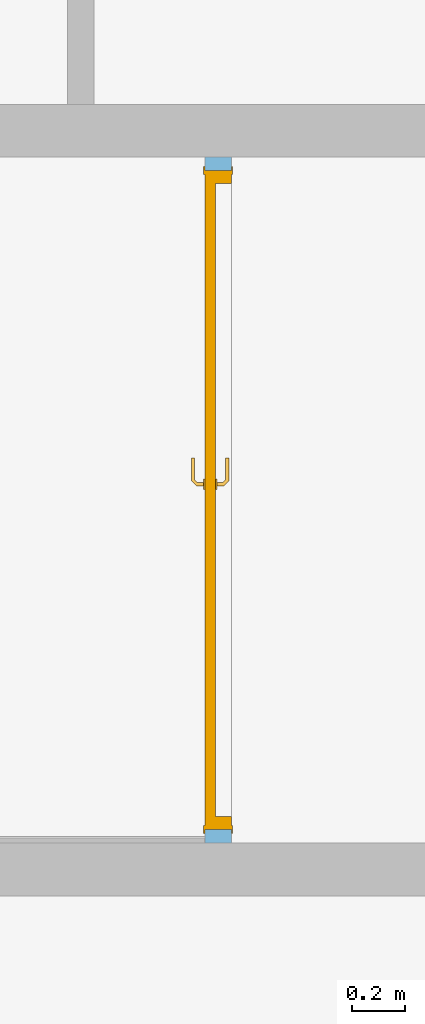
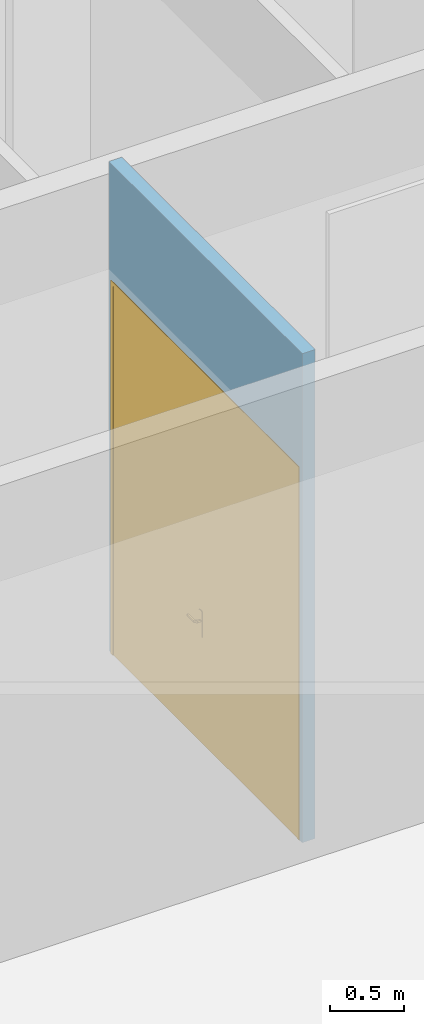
# One storey, part 222 of 240: 1 door, 1 opening, plus 1 element that does not belong to this part.
"""IFC2X3 building model written with IfcOpenShell, lengths in centimetres."""

from ifc_helpers import new_model, entity, si_unit, converted_unit, derived_unit, direction, frame, frame_2d, origin, place, context, subcontext, project, spatial, rectangle, extrude, faceted_brep, source, transform, mapped, material, material_list, layer, layer_set, layer_usage, type_object, type_shapes, element, fill, save


model = new_model("IFC2X3")

# Units and contexts
model_context = context("Model", 3, precision=0.001, world=origin(), true_north=direction((6.12303176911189e-17, 1.0)))
body_context = subcontext(model_context, "Body", "Model", "MODEL_VIEW")
ifc_project = project(units=[si_unit("LENGTHUNIT", "METRE", prefix="CENTI"), si_unit("AREAUNIT", "SQUARE_METRE"), si_unit("VOLUMEUNIT", "CUBIC_METRE"), converted_unit("PLANEANGLEUNIT", "DEGREE", entity("IfcRatioMeasure", 0.0174532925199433), si_unit("PLANEANGLEUNIT", "RADIAN"), dimensions=[0, 0, 0, 0, 0, 0, 0]), si_unit("MASSUNIT", "GRAM", prefix="KILO"), derived_unit("MASSDENSITYUNIT", [(si_unit("MASSUNIT", "GRAM", prefix="KILO"), 1), (si_unit("LENGTHUNIT", "METRE"), -3)]), si_unit("TIMEUNIT", "SECOND"), si_unit("FREQUENCYUNIT", "HERTZ"), si_unit("THERMODYNAMICTEMPERATUREUNIT", "DEGREE_CELSIUS"), derived_unit("THERMALTRANSMITTANCEUNIT", [(si_unit("MASSUNIT", "GRAM", prefix="KILO"), 1), (si_unit("THERMODYNAMICTEMPERATUREUNIT", "KELVIN"), -1), (si_unit("TIMEUNIT", "SECOND"), -3)]), derived_unit("VOLUMETRICFLOWRATEUNIT", [(si_unit("LENGTHUNIT", "METRE"), 3), (si_unit("TIMEUNIT", "SECOND"), -1)]), si_unit("ELECTRICCURRENTUNIT", "AMPERE"), si_unit("ELECTRICVOLTAGEUNIT", "VOLT"), si_unit("POWERUNIT", "WATT"), si_unit("FORCEUNIT", "NEWTON", prefix="KILO"), si_unit("ILLUMINANCEUNIT", "LUX"), si_unit("LUMINOUSFLUXUNIT", "LUMEN"), si_unit("LUMINOUSINTENSITYUNIT", "CANDELA"), derived_unit("USERDEFINED", [(si_unit("MASSUNIT", "GRAM", prefix="KILO"), -1), (si_unit("LENGTHUNIT", "METRE"), -2), (si_unit("TIMEUNIT", "SECOND"), 3), (si_unit("LUMINOUSFLUXUNIT", "LUMEN"), 1)]), derived_unit("LINEARVELOCITYUNIT", [(si_unit("LENGTHUNIT", "METRE"), 1), (si_unit("TIMEUNIT", "SECOND"), -1)]), si_unit("PRESSUREUNIT", "PASCAL"), derived_unit("USERDEFINED", [(si_unit("LENGTHUNIT", "METRE"), -2), (si_unit("MASSUNIT", "GRAM", prefix="KILO"), 1), (si_unit("TIMEUNIT", "SECOND"), -2)])], contexts=[model_context])

# Site, building, storey
site_placement = place(None, frame((-2781.94577612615, 7442.24238424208, 0.0)))
site = spatial("IfcSite", under=ifc_project, at=site_placement, Name="Default", CompositionType="ELEMENT")
building_placement = place(site_placement, origin())
building = spatial("IfcBuilding", under=site, at=building_placement, CompositionType="ELEMENT")
storey_placement = place(building_placement, origin())
storey = spatial("IfcBuildingStorey", under=building, at=storey_placement, Name="N00 - COO", CompositionType="ELEMENT", Elevation=0.0)

# Wall, opening, door
ifc_material_1 = material(Name="01 - Enduit/Plâtre")
ifc_layer_1 = layer(ifc_material_1, 1.3)
ifc_material_2 = material(Name="00 - Isolant")
ifc_layer_2 = layer(ifc_material_2, 7.4)
ifc_layer_3 = layer(ifc_material_1, 1.3)
ifc_layer_set = layer_set([ifc_layer_1, ifc_layer_2, ifc_layer_3], Name="Mur de base:06 - cloisons - Ba13 10cm")
ifc_layer_usage = layer_usage(ifc_layer_set, "AXIS2", "NEGATIVE", 5.0)
wall_type = type_object("IfcWallType", Name="Mur de base:06 - cloisons - Ba13 10cm", PredefinedType="STANDARD", material=ifc_layer_set)
wall_placement = place(building_placement, frame((-2756.99988284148, -1930.07903364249, 0.0), z_axis=(0.0, 0.0, 1.0), x_axis=(0.0, -1.0, 0.0)))
wall = element("IfcWallStandardCase", 1, at=wall_placement, inside=storey, type_object=wall_type, material=ifc_layer_usage, Name="Mur de base:06 - cloisons - Ba13 10cm", ObjectType="Mur de base:06 - cloisons - Ba13 10cm", context=body_context, shape_type="SweptSolid", body=[
    extrude(rectangle(XDim=259.999999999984, YDim=10.0000000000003, at=frame_2d((129.999999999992, 3.5527136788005e-15), x_axis=(-1.0, 0.0))), origin(), (0.0, 0.0, 1.0), 401.0),
])
opening_placement = place(wall_placement, frame((255.0, 5.0, 0.0)))
opening = element("IfcOpeningElement", 2, at=opening_placement, cuts=wall, Name="Int. Double:PV (2.50m x 3.06m):1", ObjectType="Opening", context=body_context, shape_type="SweptSolid", body=[
    extrude(rectangle(XDim=304.500000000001, YDim=250.0, at=frame_2d((152.250000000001, 125.0), x_axis=(1.0, 0.0))), frame((0.0, 0.0, 0.0), z_axis=(0.0, -1.0, 0.0), x_axis=(0.0, 0.0, 1.0)), (0.0, 0.0, 1.0), 10.0),
])
ifc_material_3 = material(Name="Bois - Panneau de porte")
ifc_material_4 = material(Name="Finition Peinture - Blanc satiné")
ifc_material_5 = material(Name="Bois - Cadre de porte")
ifc_material_list_1 = material_list([ifc_material_3, ifc_material_4, ifc_material_5])
ifc_material_list_2 = material_list([ifc_material_3, ifc_material_4, ifc_material_5])
door_style = type_object("IfcDoorStyle", Name="PV (2.50m x 3.06m)", ConstructionType="NOTDEFINED", OperationType="DOUBLE_DOOR_SINGLE_SWING", ParameterTakesPrecedence=False, Sizeable=False, material=ifc_material_list_2)
shared_shape = source(origin(), body_context, "Body", "Brep", [
    faceted_brep([(132.0, 4.0, 301.0), (253.500000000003, 4.0, 301.0), (253.500000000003, 4.0, 0.0), (132.0, 4.0, 0.0), (132.0, 0.0, 301.0), (132.0, 0.0, 0.0), (253.500000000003, 0.0, 0.0), (253.500000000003, 0.0, 301.0)], [[[0, 1, 2, 3]], [[4, 5, 6, 7]], [[1, 0, 4, 7]], [[2, 1, 7, 6]], [[3, 2, 6, 5]], [[0, 3, 5, 4]]]),
    faceted_brep([(128.0, -0.50000000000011, 87.0), (128.0, -0.50000000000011, 108.0), (127.035276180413, -0.500000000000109, 108.399601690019), (126.0, -0.500000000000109, 108.535898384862), (124.964723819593, -0.500000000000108, 108.399601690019), (124.0, -0.500000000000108, 108.0), (124.0, -0.500000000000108, 87.0), (124.964723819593, -0.500000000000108, 86.6003983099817), (126.0, -0.500000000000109, 86.464101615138), (127.035276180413, -0.500000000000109, 86.6003983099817), (128.0, 0.0, 108.0), (128.0, 0.0, 87.0), (127.035276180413, 0.0, 86.6003983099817), (126.0, 0.0, 86.464101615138), (124.964723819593, 0.0, 86.6003983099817), (124.0, 0.0, 87.0), (124.0, 0.0, 108.0), (124.964723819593, 0.0, 108.399601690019), (126.0, 0.0, 108.535898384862), (127.035276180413, 0.0, 108.399601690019)], [[[0, 1, 2, 3, 4, 5, 6, 7, 8, 9]], [[10, 11, 12, 13, 14, 15, 16, 17, 18, 19]], [[9, 12, 11, 0]], [[8, 13, 12, 9]], [[7, 14, 13, 8]], [[7, 6, 15, 14]], [[15, 6, 5, 16]], [[4, 17, 16, 5]], [[3, 18, 17, 4]], [[2, 19, 18, 3]], [[2, 1, 10, 19]], [[11, 10, 1, 0]]]),
    faceted_brep([(128.0, 4.0, 87.0), (128.0, 4.0, 108.0), (127.035276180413, 4.0, 108.399601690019), (126.0, 4.0, 108.535898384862), (124.964723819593, 4.0, 108.399601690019), (124.0, 4.0, 108.0), (124.0, 4.0, 87.0), (124.964723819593, 4.0, 86.6003983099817), (126.0, 4.0, 86.464101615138), (127.035276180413, 4.0, 86.6003983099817), (126.0, 4.49999999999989, 108.535898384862), (127.035276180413, 4.49999999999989, 108.399601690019), (128.0, 4.49999999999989, 108.0), (128.0, 4.49999999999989, 87.0), (127.035276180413, 4.49999999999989, 86.6003983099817), (126.0, 4.49999999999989, 86.464101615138), (124.964723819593, 4.49999999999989, 86.6003983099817), (124.0, 4.49999999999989, 87.0), (124.0, 4.49999999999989, 108.0), (124.964723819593, 4.49999999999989, 108.399601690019)], [[[0, 1, 2, 3, 4, 5, 6, 7, 8, 9]], [[10, 11, 12, 13, 14, 15, 16, 17, 18, 19]], [[4, 19, 18, 5]], [[3, 10, 19, 4]], [[2, 11, 10, 3]], [[2, 1, 12, 11]], [[13, 12, 1, 0]], [[9, 14, 13, 0]], [[8, 15, 14, 9]], [[7, 16, 15, 8]], [[7, 6, 17, 16]], [[17, 6, 5, 18]]]),
    faceted_brep([(125.797470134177, -0.500000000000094, 100.778044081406), (126.202529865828, -0.500000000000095, 100.778044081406), (126.600000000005, -0.500000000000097, 100.699999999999), (126.600000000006, -0.500000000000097, 99.2999999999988), (126.202529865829, -0.500000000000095, 99.221955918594), (125.797470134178, -0.500000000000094, 99.2219559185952), (125.4, -0.500000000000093, 99.3000000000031), (125.4, -0.500000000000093, 100.7), (126.202529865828, -3.10045754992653, 100.778044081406), (126.600000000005, -3.26509507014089, 100.7), (125.797470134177, -2.93267631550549, 100.778044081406), (124.42986024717, -4.30028620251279, 100.778044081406), (124.597641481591, -4.70534593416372, 100.778044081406), (125.4, -2.76803879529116, 100.7), (125.4, -2.76803879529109, 99.3000000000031), (125.797470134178, -2.93267631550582, 99.2219559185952), (126.202529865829, -3.10045754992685, 99.221955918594), (124.597641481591, -4.7053459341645, 99.221955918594), (124.42986024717, -4.30028620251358, 99.2219559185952), (126.600000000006, -3.26509507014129, 99.2999999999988), (124.762279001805, -5.10281606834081, 100.7), (124.265222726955, -3.90281606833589, 100.7), (124.265222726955, -3.90281606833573, 99.3000000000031), (124.762279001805, -5.10281606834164, 99.2999999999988), (115.998135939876, -5.10281606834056, 100.7), (115.998135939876, -4.70534593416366, 100.778044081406), (115.998135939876, -4.30028620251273, 100.778044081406), (115.998135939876, -3.9028160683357, 100.699999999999), (115.998135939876, -3.90281606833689, 99.3000000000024), (115.998135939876, -4.30028620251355, 99.2219559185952), (115.998135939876, -4.70534593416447, 99.221955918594), (115.998135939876, -5.10281606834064, 99.2999999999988), (120.213998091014, -4.50281606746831, 100.78786867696), (120.769230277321, -5.10281606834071, 100.7), (120.131679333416, -3.9028160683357, 100.7), (120.131679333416, -3.9028160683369, 99.3000000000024), (120.213998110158, -4.50281607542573, 99.2121313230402), (120.769231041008, -5.10281606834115, 99.2999999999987)], [[[0, 1, 2, 3, 4, 5, 6, 7]], [[2, 1, 8, 9]], [[1, 0, 10, 11, 12, 8]], [[0, 7, 13, 10]], [[14, 13, 7, 6]], [[5, 15, 14, 6]], [[5, 4, 16, 17, 18, 15]], [[3, 19, 16, 4]], [[9, 19, 3, 2]], [[9, 8, 12, 20]], [[10, 13, 21, 11]], [[22, 21, 13, 14]], [[14, 15, 18, 22]], [[16, 19, 23, 17]], [[20, 23, 19, 9]], [[24, 25, 26, 27, 28, 29, 30, 31]], [[32, 25, 33]], [[33, 25, 24]], [[33, 20, 12]], [[11, 34, 32]], [[34, 11, 21]], [[27, 26, 34]], [[32, 26, 25]], [[32, 34, 26]], [[32, 33, 12]], [[11, 32, 12]], [[21, 22, 35, 28, 27, 34]], [[36, 29, 35]], [[30, 36, 37]], [[18, 35, 22]], [[29, 28, 35]], [[30, 37, 31]], [[37, 17, 23]], [[36, 17, 37]], [[36, 18, 17]], [[36, 35, 18]], [[29, 36, 30]], [[23, 20, 33, 24, 31, 37]]]),
    faceted_brep([(125.797470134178, 4.4999999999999, 99.2219559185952), (126.202529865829, 4.4999999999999, 99.221955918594), (126.600000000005, 4.4999999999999, 99.2999999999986), (126.600000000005, 4.4999999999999, 100.7), (126.202529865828, 4.4999999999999, 100.778044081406), (125.797470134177, 4.4999999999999, 100.778044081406), (125.4, 4.49999999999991, 100.7), (125.400000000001, 4.49999999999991, 99.3000000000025), (125.4, 6.7485204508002, 100.7), (125.4, 6.7485204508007, 99.3000000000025), (125.797470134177, 6.91315797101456, 100.778044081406), (126.202529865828, 7.08093920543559, 100.778044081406), (124.583890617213, 8.69957845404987, 100.778044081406), (124.416109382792, 8.29451872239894, 100.778044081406), (126.600000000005, 7.24557672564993, 100.7), (126.600000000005, 7.24557672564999, 99.2999999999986), (126.202529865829, 7.08093920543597, 99.221955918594), (125.797470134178, 6.91315797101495, 99.2219559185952), (124.416109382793, 8.29451872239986, 99.2219559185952), (124.583890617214, 8.69957845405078, 99.221955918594), (124.251471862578, 7.89704858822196, 100.7), (124.251471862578, 7.89704858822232, 99.3000000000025), (124.748528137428, 9.09704858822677, 100.7), (124.748528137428, 9.0970485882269, 99.2999999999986), (115.995421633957, 8.294518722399, 100.778044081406), (115.995421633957, 8.69957845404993, 100.778044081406), (115.995421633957, 9.09704858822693, 100.7), (115.995421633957, 9.09704858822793, 99.2999999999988), (115.995421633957, 8.6995784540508, 99.221955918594), (115.995421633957, 8.29451872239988, 99.2219559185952), (115.995421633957, 7.89704858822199, 99.3000000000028), (115.995421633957, 7.8970485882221, 100.7), (120.123446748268, 7.89704858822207, 100.7), (120.123447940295, 7.89704858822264, 99.3000000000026), (120.20576551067, 8.49704858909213, 100.78786867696), (120.755479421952, 9.09704858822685, 100.7), (120.755479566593, 9.09704858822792, 99.2999999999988), (120.205765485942, 8.49704858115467, 99.2121313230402)], [[[0, 1, 2, 3, 4, 5, 6, 7]], [[8, 9, 7, 6]], [[5, 10, 8, 6]], [[5, 4, 11, 12, 13, 10]], [[3, 14, 11, 4]], [[14, 3, 2, 15]], [[2, 1, 16, 15]], [[1, 0, 17, 18, 19, 16]], [[0, 7, 9, 17]], [[20, 21, 9, 8]], [[8, 10, 13, 20]], [[14, 22, 12, 11]], [[23, 22, 14, 15]], [[15, 16, 19, 23]], [[17, 9, 21, 18]], [[24, 25, 26, 27, 28, 29, 30, 31]], [[21, 20, 32, 31, 30, 33]], [[34, 24, 32]], [[25, 34, 35]], [[13, 32, 20]], [[24, 31, 32]], [[25, 35, 26]], [[35, 12, 22]], [[34, 12, 35]], [[34, 13, 12]], [[34, 32, 13]], [[24, 34, 25]], [[22, 23, 36, 27, 26, 35]], [[37, 28, 36]], [[36, 28, 27]], [[36, 23, 19]], [[18, 33, 37]], [[33, 18, 21]], [[30, 29, 33]], [[37, 29, 28]], [[37, 33, 29]], [[37, 36, 19]], [[18, 37, 19]]]),
    faceted_brep([(132.0, 4.0, 301.0), (132.0, 4.0, 0.0), (10.5000000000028, 4.0, 0.0), (10.5000000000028, 4.0, 301.0), (132.0, 0.0, 301.0), (10.5000000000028, 0.0, 301.0), (10.5000000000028, 0.0, 0.0), (132.0, 0.0, 0.0)], [[[0, 1, 2, 3]], [[4, 5, 6, 7]], [[3, 5, 4, 0]], [[2, 6, 5, 3]], [[1, 7, 6, 2]], [[0, 4, 7, 1]]]),
    faceted_brep([(257.0, 0.0, 0.0), (253.500000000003, 0.0, 0.0), (253.500000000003, 4.0, 0.0), (252.0, 4.0, 0.0), (252.0, 10.0, 0.0), (257.0, 10.0, 0.0), (257.0, 10.0, 304.500000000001), (257.0, 0.0, 304.500000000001), (252.0, 10.0, 299.5), (12.0, 10.0, 299.5), (12.0, 10.0, 0.0), (7.0, 10.0, 0.0), (7.0, 10.0, 304.500000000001), (252.0, 4.0, 299.5), (253.500000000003, 4.0, 301.0), (10.5000000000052, 4.0, 301.0), (10.5000000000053, 4.0, 0.0), (12.0, 4.0, 0.0), (12.0, 4.0, 299.5), (253.500000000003, 0.0, 301.0), (7.0, 0.0, 304.500000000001), (7.0, 0.0, 0.0), (10.5000000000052, 0.0, 0.0), (10.5000000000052, 0.0, 301.0)], [[[0, 1, 2, 3, 4, 5]], [[5, 6, 7, 0]], [[4, 8, 9, 10, 11, 12, 6, 5]], [[3, 13, 8, 4]], [[2, 14, 15, 16, 17, 18, 13, 3]], [[1, 19, 14, 2]], [[0, 7, 20, 21, 22, 23, 19, 1]], [[12, 11, 21, 20]], [[21, 11, 10, 17, 16, 22]], [[18, 17, 10, 9]], [[23, 22, 16, 15]], [[6, 12, 20, 7]], [[13, 18, 9, 8]], [[19, 23, 15, 14]]]),
    faceted_brep([(255.500000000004, 10.0, 0.0), (255.500000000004, 10.5000000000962, 0.0), (258.500000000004, 10.5000000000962, 0.0), (258.500000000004, 10.0, 0.0), (258.500000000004, 10.0, 306.0), (5.50000000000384, 10.0, 306.0), (5.50000000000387, 10.0, 0.0), (8.50000000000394, 10.0, 0.0), (8.50000000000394, 10.0, 303.0), (255.500000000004, 10.0, 303.0), (258.500000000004, 10.5000000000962, 306.0), (255.500000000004, 10.5000000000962, 303.0), (8.50000000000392, 10.5000000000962, 303.0), (8.50000000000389, 10.5000000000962, 0.0), (5.50000000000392, 10.5000000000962, 0.0), (5.50000000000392, 10.5000000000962, 306.0)], [[[0, 1, 2, 3]], [[3, 4, 5, 6, 7, 8, 9, 0]], [[2, 10, 4, 3]], [[1, 11, 12, 13, 14, 15, 10, 2]], [[0, 9, 11, 1]], [[8, 7, 13, 12]], [[7, 6, 14, 13]], [[15, 14, 6, 5]], [[10, 15, 5, 4]], [[9, 8, 12, 11]]]),
    faceted_brep([(258.500000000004, -0.500000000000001, 0.0), (258.500000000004, -0.500000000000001, 306.0), (5.50000000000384, -0.500000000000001, 306.0), (5.50000000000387, -0.500000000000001, 0.0), (8.50000000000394, -0.500000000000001, 0.0), (8.50000000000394, -0.500000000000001, 303.0), (255.500000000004, -0.500000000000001, 303.0), (255.500000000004, -0.500000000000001, 0.0), (258.500000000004, 0.0, 0.0), (258.500000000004, 0.0, 306.0), (255.500000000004, 0.0, 0.0), (255.500000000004, 0.0, 303.0), (8.50000000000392, 0.0, 303.0), (8.50000000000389, 0.0, 0.0), (5.50000000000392, 0.0, 0.0), (5.50000000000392, 0.0, 306.0)], [[[0, 1, 2, 3, 4, 5, 6, 7]], [[8, 9, 1, 0]], [[10, 11, 12, 13, 14, 15, 9, 8]], [[7, 6, 11, 10]], [[5, 4, 13, 12]], [[15, 14, 3, 2]], [[9, 15, 2, 1]], [[6, 5, 12, 11]], [[4, 3, 14, 13]], [[7, 10, 8, 0]]]),
])
type_shapes(door_style, [shared_shape])
door_placement = place(opening_placement, frame((-257.0, -10.0, 0.0)))
door = element("IfcDoor", 3, at=door_placement, inside=storey, type_object=door_style, material=ifc_material_list_1, Name="Int. Double:PV (2.50m x 3.06m)", ObjectType="Int. Double:PV (2.50m x 3.06m)", OverallHeight=304.500000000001, OverallWidth=250.0, context=body_context, shape_type="MappedRepresentation", body=[
    mapped(shared_shape, transform((0.0, 0.0, 0.0), scale=1.0)),
])
fill(opening, door)

save(model, "model.ifc")
